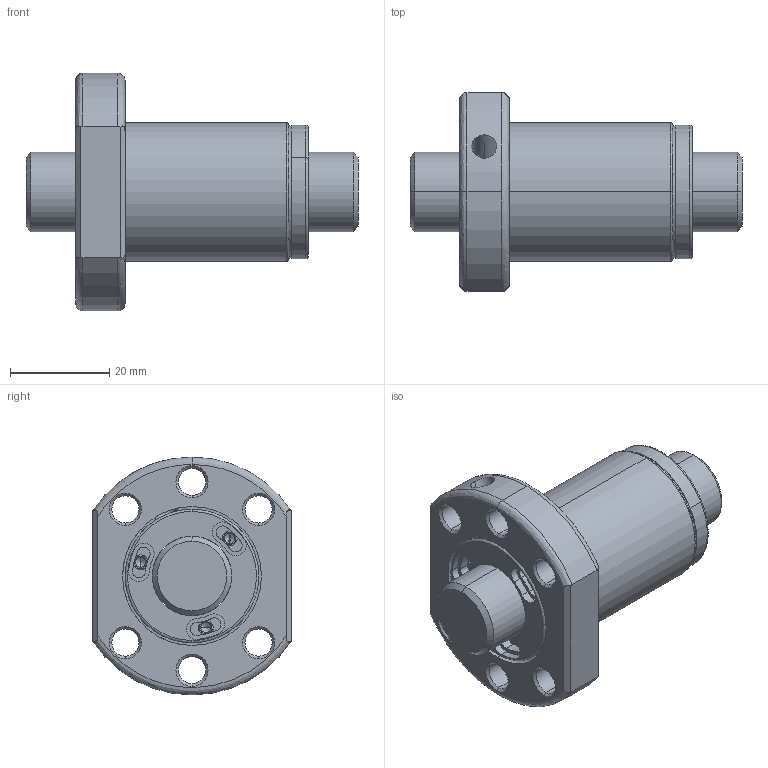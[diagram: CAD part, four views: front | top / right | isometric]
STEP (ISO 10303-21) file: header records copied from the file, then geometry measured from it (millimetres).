
FILE_DESCRIPTION (( 'STEP AP203' ), '1' );
FILE_NAME ('SFSR01610B1D-C.STEP', '2020-06-17T00:54:16', ( '' ), ( '' ), 'SwSTEP 2.0', 'SolidWorks 2013', '' );
FILE_SCHEMA (( 'CONFIG_CONTROL_DESIGN' ));
Length unit declared in the file: millimetre
Products named in the file (1): SFSR01610B1D-C
Bounding box: 67 x 40 x 48 mm (x, y, z)
Volume: 40063.8 mm3; surface area: 15775.7 mm2
Topology: 2 solids, 2 shells, 239 faces, 574 edges, 349 vertices
Faces by surface type: cylinder 121, plane 54, cone 52, bspline 12
Entity records: 7491 total; most frequent: CARTESIAN_POINT 1715, DIRECTION 1325, ORIENTED_EDGE 1124, AXIS2_PLACEMENT_3D 569, EDGE_CURVE 562, VERTEX_POINT 349, CIRCLE 341, EDGE_LOOP 279
